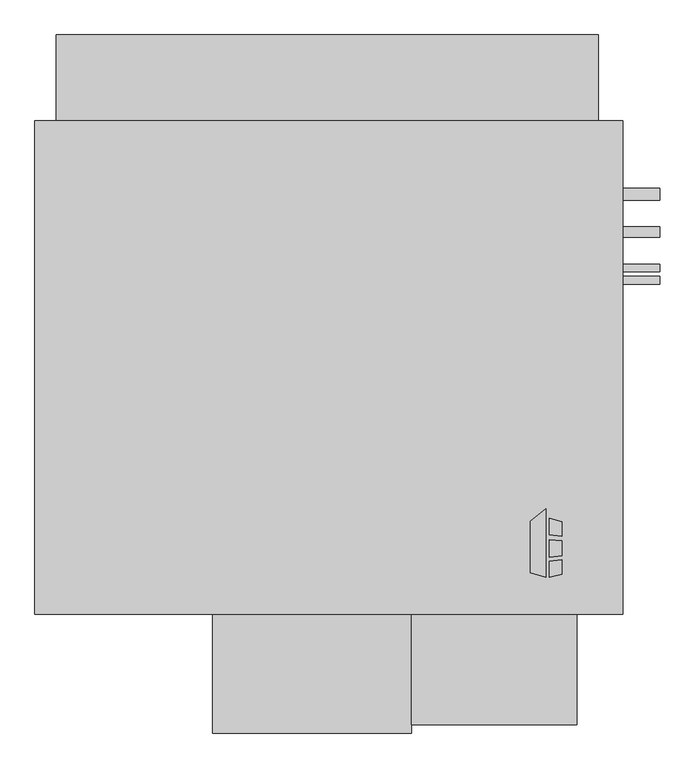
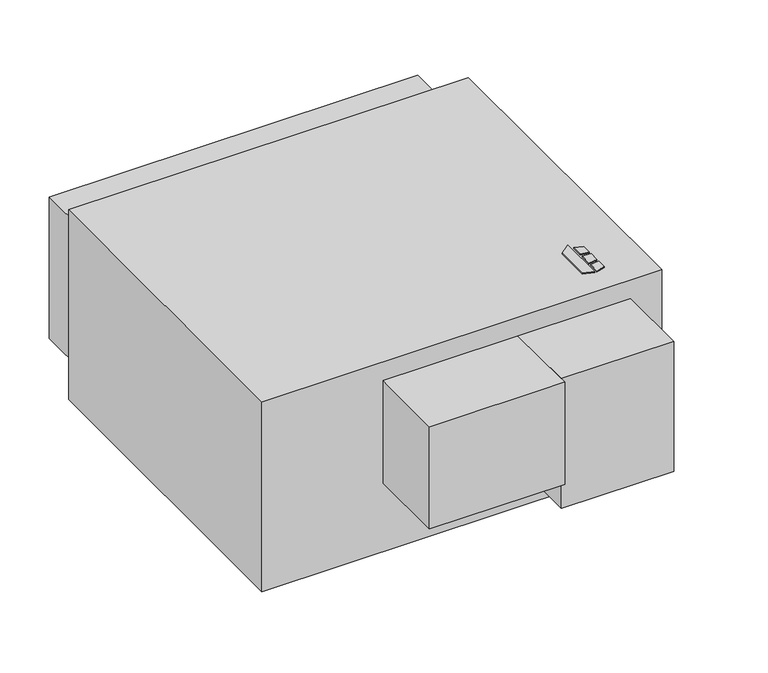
"""IFC4 building model written with IfcOpenShell, lengths in millimetres: proxy geometry, Horizontal_Direct_Drive_Blower_Coil_Unit_-_HDY_-_IEC_-_4-Pipe_RH_2022 : Size 20 - 460v/60Hz/3Ph - 6/2 Coil."""

from ifc_helpers import new_model, si_unit, point, frame, frame_2d, origin, origin_with_axes, place, context, project, spatial, polyline, circle_curve, trimmed, segment, composite_curve, outline, extrude, source, transform, mapped, element, save


def mechanical_equipment_a58ec341(model_context):
    return source(origin(), model_context, "Body", "SweptSolid", [
        extrude(outline(polyline([(-39.9980239, -337.5078476), (-7.4397272, -312.0705184), (-7.4397272, -454.025), (-39.9980239, -443.8054201), (-39.9980239, -337.5078476)])), origin_with_axes(), (0.0, 0.0, 1.0), 3.175),
        extrude(outline(polyline([(-0.6813942, -365.379852), (-0.6813942, -330.8999379), (25.4, -339.0865115), (25.4, -368.5822446), (-0.6813942, -365.379852)])), origin_with_axes(), (0.0, 0.0, 1.0), 3.175),
        extrude(outline(polyline([(25.4, -447.0365115), (-0.6813942, -454.025), (-0.6813942, -420.8036996), (25.4, -417.2618564), (25.4, -447.0365115)])), origin_with_axes(), (0.0, 0.0, 1.0), 3.175),
        extrude(outline(polyline([(25.4, -377.6638277), (25.4, -408.913983), (-0.6813942, -411.655248), (-0.6813942, -375.7975378), (25.4, -377.6638277)])), origin_with_axes(), (0.0, 0.0, 1.0), 3.175),
        extrude(outline(polyline([(152.4, 492.125), (152.4, -530.225), (-1066.8, -530.225), (-1066.8, 492.125), (152.4, 492.125)])), frame((0.0, 0.0, -612.7558174), z_axis=(0.0, 0.0, 1.0), x_axis=(1.0, 0.0, 0.0)), (0.0, 0.0, 1.0), 612.7558174),
        extrude(outline(polyline([(57.15, -758.825), (-285.75, -758.825), (-285.75, -530.225), (57.15, -530.225), (57.15, -758.825)])), frame((0.0, 0.0, -479.4058174), z_axis=(0.0, 0.0, 1.0), x_axis=(1.0, 0.0, 0.0)), (0.0, 0.0, 1.0), 419.1),
        extrude(outline(composite_curve([segment(trimmed(circle_curve(frame_2d((339.725, -180.7500418)), 12.7), [point((352.425, -180.7500418))], [point((327.025, -180.7500418))], False, "CARTESIAN"), True, "CONTINUOUS"), segment(trimmed(circle_curve(frame_2d((339.725, -180.7500418)), 12.7), [point((327.025, -180.7500418))], [point((352.425, -180.7500418))], False, "CARTESIAN"), True, "CONTINUOUS")], self_intersect=False)), frame((152.4, 0.0, 0.0), z_axis=(1.0, 0.0, 0.0), x_axis=(0.0, 1.0, 0.0)), (0.0, 0.0, 1.0), 76.2),
        extrude(outline(composite_curve([segment(trimmed(circle_curve(frame_2d((339.725, -485.7558174)), 12.7), [point((352.425, -485.7558174))], [point((327.025, -485.7558174))], False, "CARTESIAN"), True, "CONTINUOUS"), segment(trimmed(circle_curve(frame_2d((339.725, -485.7558174)), 12.7), [point((327.025, -485.7558174))], [point((352.425, -485.7558174))], False, "CARTESIAN"), True, "CONTINUOUS")], self_intersect=False)), frame((152.4, 0.0, 0.0), z_axis=(1.0, 0.0, 0.0), x_axis=(0.0, 1.0, 0.0)), (0.0, 0.0, 1.0), 76.2),
        extrude(outline(composite_curve([segment(trimmed(circle_curve(frame_2d((261.7604089, -568.3058174)), 11.1125), [point((272.8729089, -568.3058174))], [point((250.6479089, -568.3058174))], False, "CARTESIAN"), True, "CONTINUOUS"), segment(trimmed(circle_curve(frame_2d((261.7604089, -568.3058174)), 11.1125), [point((250.6479089, -568.3058174))], [point((272.8729089, -568.3058174))], False, "CARTESIAN"), True, "CONTINUOUS")], self_intersect=False)), frame((152.4, 0.0, 0.0), z_axis=(1.0, 0.0, 0.0), x_axis=(0.0, 1.0, 0.0)), (0.0, 0.0, 1.0), 76.2),
        extrude(outline(composite_curve([segment(trimmed(circle_curve(frame_2d((187.325, -231.7558174)), 7.9375), [point((195.2625, -231.7558174))], [point((179.3875, -231.7558174))], False, "CARTESIAN"), True, "CONTINUOUS"), segment(trimmed(circle_curve(frame_2d((187.325, -231.7558174)), 7.9375), [point((179.3875, -231.7558174))], [point((195.2625, -231.7558174))], False, "CARTESIAN"), True, "CONTINUOUS")], self_intersect=False)), frame((152.4, 0.0, 0.0), z_axis=(1.0, 0.0, 0.0), x_axis=(0.0, 1.0, 0.0)), (0.0, 0.0, 1.0), 76.2),
        extrude(outline(composite_curve([segment(trimmed(circle_curve(frame_2d((161.925, -434.9558174)), 7.9375), [point((169.8625, -434.9558174))], [point((153.9875, -434.9558174))], False, "CARTESIAN"), True, "CONTINUOUS"), segment(trimmed(circle_curve(frame_2d((161.925, -434.9558174)), 7.9375), [point((153.9875, -434.9558174))], [point((169.8625, -434.9558174))], False, "CARTESIAN"), True, "CONTINUOUS")], self_intersect=False)), frame((152.4, 0.0, 0.0), z_axis=(1.0, 0.0, 0.0), x_axis=(0.0, 1.0, 0.0)), (0.0, 0.0, 1.0), 76.2),
        extrude(outline(polyline([(-1022.35, 669.925), (101.6, 669.925), (101.6, 492.125), (-1022.35, 492.125), (-1022.35, 669.925)])), frame((0.0, 0.0, -539.7308174), z_axis=(0.0, 0.0, 1.0), x_axis=(1.0, 0.0, 0.0)), (0.0, 0.0, 1.0), 457.2),
        extrude(outline(polyline([(-285.75, -776.2875), (-698.5, -776.2875), (-698.5, -530.225), (-285.75, -530.225), (-285.75, -776.2875)])), frame((0.0, 0.0, -390.5058174), z_axis=(0.0, 0.0, 1.0), x_axis=(1.0, 0.0, 0.0)), (0.0, 0.0, 1.0), 330.2),
    ])


if __name__ == "__main__":
    model = new_model("IFC4")
    model_context = context("Model", 3, world=origin())
    ifc_project = project(units=[si_unit("LENGTHUNIT", "METRE", prefix="MILLI")], contexts=[model_context])
    site = spatial("IfcSite", under=ifc_project)
    building = spatial("IfcBuilding", under=site)
    placement = place(None, origin())
    mechanical_equipment_shape = mechanical_equipment_a58ec341(model_context)
    element("IfcBuildingElementProxy", 1, Name="Horizontal_Direct_Drive_Blower_Coil_Unit_-_HDY_-_IEC_-_4-Pipe_RH_2022 : Size 20 - 460v/60Hz/3Ph - 6/2 Coil", ObjectType="Horizontal_Direct_Drive_Blower_Coil_Unit_-_HDY_-_IEC_-_4-Pipe_RH_2022 : Size 20 - 460v/60Hz/3Ph - 6/2 Coil", at=placement, inside=building, context=model_context, shape_type="MappedRepresentation", body=[
        mapped(mechanical_equipment_shape, transform((0.0, 0.0, 0.0), x_axis=(1.0, 0.0, 0.0), y_axis=(0.0, 1.0, 0.0), z_axis=(0.0, 0.0, 1.0))),
    ])
    save(model, "model.ifc")
